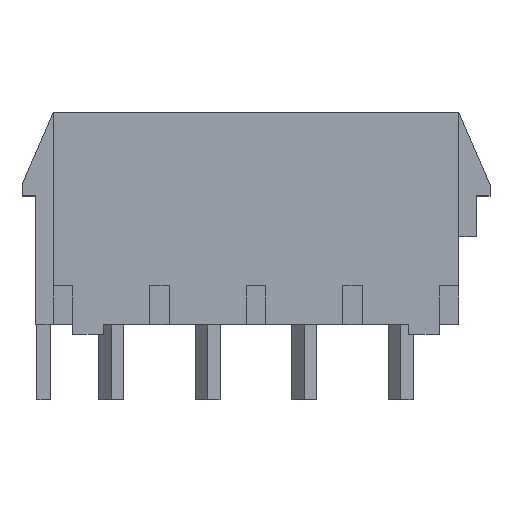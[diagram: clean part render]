
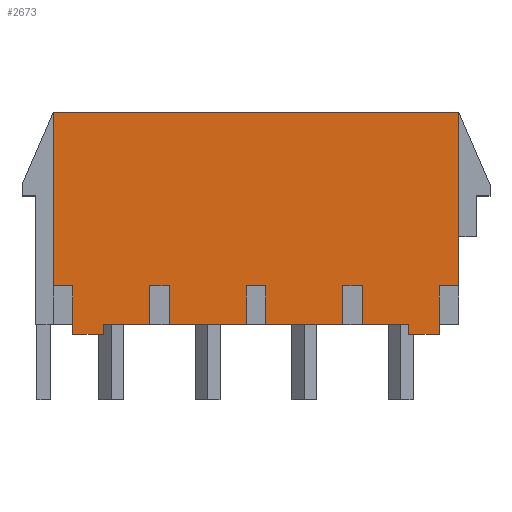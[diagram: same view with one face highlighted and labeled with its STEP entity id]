
A CAD part, top view. The second image highlights one B-rep face of the part: STEP entity #2673.
In plain terms, the highlighted planar face has unit normal (0, 0, 1).
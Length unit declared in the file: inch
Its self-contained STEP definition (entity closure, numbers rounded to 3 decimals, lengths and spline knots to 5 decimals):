
#353=DIRECTION('',(0.,-1.,0.));
#354=VECTOR('',#353,0.025);
#355=CARTESIAN_POINT('',(-0.475,-0.275,0.15));
#356=LINE('',#355,#354);
#357=DIRECTION('',(0.,-1.,0.));
#358=VECTOR('',#357,0.1);
#359=CARTESIAN_POINT('',(0.475,-0.175,0.15));
#360=LINE('',#359,#358);
#361=DIRECTION('',(0.,-1.,0.));
#362=VECTOR('',#361,0.025);
#363=CARTESIAN_POINT('',(0.475,-0.275,0.15));
#364=LINE('',#363,#362);
#365=DIRECTION('',(1.,0.,0.));
#366=VECTOR('',#365,0.12);
#367=CARTESIAN_POINT('',(0.275,-0.275,0.15));
#368=LINE('',#367,#366);
#369=DIRECTION('',(0.,1.,0.));
#370=VECTOR('',#369,0.1);
#371=CARTESIAN_POINT('',(0.275,-0.275,0.15));
#372=LINE('',#371,#370);
#373=DIRECTION('',(-1.,0.,0.));
#374=VECTOR('',#373,0.05);
#375=CARTESIAN_POINT('',(0.275,-0.175,0.15));
#376=LINE('',#375,#374);
#377=DIRECTION('',(0.,-1.,0.));
#378=VECTOR('',#377,0.1);
#379=CARTESIAN_POINT('',(0.225,-0.175,0.15));
#380=LINE('',#379,#378);
#381=DIRECTION('',(1.,0.,0.));
#382=VECTOR('',#381,0.2);
#383=CARTESIAN_POINT('',(0.025,-0.275,0.15));
#384=LINE('',#383,#382);
#385=DIRECTION('',(0.,1.,0.));
#386=VECTOR('',#385,0.1);
#387=CARTESIAN_POINT('',(0.025,-0.275,0.15));
#388=LINE('',#387,#386);
#389=DIRECTION('',(-1.,0.,0.));
#390=VECTOR('',#389,0.05);
#391=CARTESIAN_POINT('',(0.025,-0.175,0.15));
#392=LINE('',#391,#390);
#393=DIRECTION('',(0.,-1.,0.));
#394=VECTOR('',#393,0.1);
#395=CARTESIAN_POINT('',(-0.025,-0.175,0.15));
#396=LINE('',#395,#394);
#397=DIRECTION('',(1.,0.,0.));
#398=VECTOR('',#397,0.2);
#399=CARTESIAN_POINT('',(-0.225,-0.275,0.15));
#400=LINE('',#399,#398);
#401=DIRECTION('',(0.,1.,0.));
#402=VECTOR('',#401,0.1);
#403=CARTESIAN_POINT('',(-0.225,-0.275,0.15));
#404=LINE('',#403,#402);
#405=DIRECTION('',(-1.,0.,0.));
#406=VECTOR('',#405,0.05);
#407=CARTESIAN_POINT('',(-0.225,-0.175,0.15));
#408=LINE('',#407,#406);
#409=DIRECTION('',(0.,-1.,0.));
#410=VECTOR('',#409,0.1);
#411=CARTESIAN_POINT('',(-0.275,-0.175,0.15));
#412=LINE('',#411,#410);
#413=DIRECTION('',(1.,0.,0.));
#414=VECTOR('',#413,0.12);
#415=CARTESIAN_POINT('',(-0.395,-0.275,0.15));
#416=LINE('',#415,#414);
#417=DIRECTION('',(0.,-1.,0.));
#418=VECTOR('',#417,0.025);
#419=CARTESIAN_POINT('',(-0.395,-0.275,0.15));
#420=LINE('',#419,#418);
#421=DIRECTION('',(0.,1.,0.));
#422=VECTOR('',#421,0.1);
#423=CARTESIAN_POINT('',(-0.475,-0.275,0.15));
#424=LINE('',#423,#422);
#425=DIRECTION('',(1.,0.,0.));
#426=VECTOR('',#425,0.05);
#427=CARTESIAN_POINT('',(-0.525,-0.175,0.15));
#428=LINE('',#427,#426);
#429=DIRECTION('',(0.,-1.,0.));
#430=VECTOR('',#429,0.45);
#431=CARTESIAN_POINT('',(-0.525,0.275,0.15));
#432=LINE('',#431,#430);
#433=DIRECTION('',(-1.,0.,0.));
#434=VECTOR('',#433,1.05);
#435=CARTESIAN_POINT('',(0.525,0.275,0.15));
#436=LINE('',#435,#434);
#437=DIRECTION('',(0.,1.,0.));
#438=VECTOR('',#437,0.45);
#439=CARTESIAN_POINT('',(0.525,-0.175,0.15));
#440=LINE('',#439,#438);
#441=DIRECTION('',(-1.,0.,0.));
#442=VECTOR('',#441,0.05);
#443=CARTESIAN_POINT('',(0.525,-0.175,0.15));
#444=LINE('',#443,#442);
#1417=DIRECTION('',(0.,-1.,0.));
#1418=VECTOR('',#1417,0.025);
#1419=CARTESIAN_POINT('',(0.395,-0.275,0.15));
#1420=LINE('',#1419,#1418);
#1425=DIRECTION('',(-1.,0.,0.));
#1426=VECTOR('',#1425,0.08);
#1427=CARTESIAN_POINT('',(-0.395,-0.3,0.15));
#1428=LINE('',#1427,#1426);
#1437=DIRECTION('',(-1.,0.,0.));
#1438=VECTOR('',#1437,0.08);
#1439=CARTESIAN_POINT('',(0.475,-0.3,0.15));
#1440=LINE('',#1439,#1438);
#1609=CARTESIAN_POINT('',(0.525,0.275,0.15));
#1610=CARTESIAN_POINT('',(-0.525,0.275,0.15));
#1611=VERTEX_POINT('',#1609);
#1612=VERTEX_POINT('',#1610);
#1833=CARTESIAN_POINT('',(-0.525,-0.175,0.15));
#1834=CARTESIAN_POINT('',(-0.475,-0.175,0.15));
#1835=VERTEX_POINT('',#1833);
#1836=VERTEX_POINT('',#1834);
#1845=CARTESIAN_POINT('',(-0.225,-0.275,0.15));
#1846=CARTESIAN_POINT('',(-0.225,-0.175,0.15));
#1847=VERTEX_POINT('',#1845);
#1848=VERTEX_POINT('',#1846);
#1849=CARTESIAN_POINT('',(-0.275,-0.175,0.15));
#1850=VERTEX_POINT('',#1849);
#1851=CARTESIAN_POINT('',(-0.275,-0.275,0.15));
#1852=VERTEX_POINT('',#1851);
#1861=CARTESIAN_POINT('',(0.025,-0.275,0.15));
#1862=CARTESIAN_POINT('',(0.025,-0.175,0.15));
#1863=VERTEX_POINT('',#1861);
#1864=VERTEX_POINT('',#1862);
#1865=CARTESIAN_POINT('',(-0.025,-0.175,0.15));
#1866=VERTEX_POINT('',#1865);
#1867=CARTESIAN_POINT('',(-0.025,-0.275,0.15));
#1868=VERTEX_POINT('',#1867);
#1877=CARTESIAN_POINT('',(0.275,-0.175,0.15));
#1878=CARTESIAN_POINT('',(0.225,-0.175,0.15));
#1879=VERTEX_POINT('',#1877);
#1880=VERTEX_POINT('',#1878);
#1881=CARTESIAN_POINT('',(0.225,-0.275,0.15));
#1882=VERTEX_POINT('',#1881);
#1883=CARTESIAN_POINT('',(0.275,-0.275,0.15));
#1884=VERTEX_POINT('',#1883);
#1909=CARTESIAN_POINT('',(0.525,-0.175,0.15));
#1910=CARTESIAN_POINT('',(0.475,-0.175,0.15));
#1911=VERTEX_POINT('',#1909);
#1912=VERTEX_POINT('',#1910);
#1961=CARTESIAN_POINT('',(-0.475,-0.3,0.15));
#1963=VERTEX_POINT('',#1961);
#1967=CARTESIAN_POINT('',(-0.395,-0.3,0.15));
#1968=VERTEX_POINT('',#1967);
#1969=CARTESIAN_POINT('',(0.475,-0.3,0.15));
#1970=CARTESIAN_POINT('',(0.395,-0.3,0.15));
#1971=VERTEX_POINT('',#1969);
#1972=VERTEX_POINT('',#1970);
#1993=CARTESIAN_POINT('',(-0.475,-0.275,0.15));
#1995=VERTEX_POINT('',#1993);
#1999=CARTESIAN_POINT('',(-0.395,-0.275,0.15));
#2000=VERTEX_POINT('',#1999);
#2001=CARTESIAN_POINT('',(0.395,-0.275,0.15));
#2003=VERTEX_POINT('',#2001);
#2007=CARTESIAN_POINT('',(0.475,-0.275,0.15));
#2008=VERTEX_POINT('',#2007);
#2619=CARTESIAN_POINT('',(0.,0.,0.15));
#2620=DIRECTION('',(0.,0.,1.));
#2621=DIRECTION('',(1.,0.,0.));
#2622=AXIS2_PLACEMENT_3D('',#2619,#2620,#2621);
#2623=PLANE('',#2622);
#2625=ORIENTED_EDGE('',*,*,#2624,.T.);
#2627=ORIENTED_EDGE('',*,*,#2626,.T.);
#2629=ORIENTED_EDGE('',*,*,#2628,.T.);
#2631=ORIENTED_EDGE('',*,*,#2630,.F.);
#2632=ORIENTED_EDGE('',*,*,#2168,.F.);
#2634=ORIENTED_EDGE('',*,*,#2633,.T.);
#2636=ORIENTED_EDGE('',*,*,#2635,.T.);
#2638=ORIENTED_EDGE('',*,*,#2637,.T.);
#2639=ORIENTED_EDGE('',*,*,#2160,.F.);
#2641=ORIENTED_EDGE('',*,*,#2640,.T.);
#2643=ORIENTED_EDGE('',*,*,#2642,.T.);
#2645=ORIENTED_EDGE('',*,*,#2644,.T.);
#2646=ORIENTED_EDGE('',*,*,#2152,.F.);
#2648=ORIENTED_EDGE('',*,*,#2647,.T.);
#2650=ORIENTED_EDGE('',*,*,#2649,.T.);
#2652=ORIENTED_EDGE('',*,*,#2651,.T.);
#2653=ORIENTED_EDGE('',*,*,#2144,.F.);
#2655=ORIENTED_EDGE('',*,*,#2654,.T.);
#2657=ORIENTED_EDGE('',*,*,#2656,.T.);
#2658=ORIENTED_EDGE('',*,*,#2610,.F.);
#2660=ORIENTED_EDGE('',*,*,#2659,.T.);
#2662=ORIENTED_EDGE('',*,*,#2661,.F.);
#2664=ORIENTED_EDGE('',*,*,#2663,.F.);
#2666=ORIENTED_EDGE('',*,*,#2665,.F.);
#2668=ORIENTED_EDGE('',*,*,#2667,.F.);
#2670=ORIENTED_EDGE('',*,*,#2669,.T.);
#2671=EDGE_LOOP('',(#2625,#2627,#2629,#2631,#2632,#2634,#2636,#2638,#2639,#2641,
#2643,#2645,#2646,#2648,#2650,#2652,#2653,#2655,#2657,#2658,#2660,#2662,#2664,
#2666,#2668,#2670));
#2672=FACE_OUTER_BOUND('',#2671,.F.);
#2673=ADVANCED_FACE('',(#2672),#2623,.T.);
#2144=EDGE_CURVE('',#2000,#1852,#416,.T.);
#2152=EDGE_CURVE('',#1847,#1868,#400,.T.);
#2160=EDGE_CURVE('',#1863,#1882,#384,.T.);
#2168=EDGE_CURVE('',#1884,#2003,#368,.T.);
#2610=EDGE_CURVE('',#1995,#1963,#356,.T.);
#2624=EDGE_CURVE('',#1912,#2008,#360,.T.);
#2626=EDGE_CURVE('',#2008,#1971,#364,.T.);
#2628=EDGE_CURVE('',#1971,#1972,#1440,.T.);
#2630=EDGE_CURVE('',#2003,#1972,#1420,.T.);
#2633=EDGE_CURVE('',#1884,#1879,#372,.T.);
#2635=EDGE_CURVE('',#1879,#1880,#376,.T.);
#2637=EDGE_CURVE('',#1880,#1882,#380,.T.);
#2640=EDGE_CURVE('',#1863,#1864,#388,.T.);
#2642=EDGE_CURVE('',#1864,#1866,#392,.T.);
#2644=EDGE_CURVE('',#1866,#1868,#396,.T.);
#2647=EDGE_CURVE('',#1847,#1848,#404,.T.);
#2649=EDGE_CURVE('',#1848,#1850,#408,.T.);
#2651=EDGE_CURVE('',#1850,#1852,#412,.T.);
#2654=EDGE_CURVE('',#2000,#1968,#420,.T.);
#2656=EDGE_CURVE('',#1968,#1963,#1428,.T.);
#2659=EDGE_CURVE('',#1995,#1836,#424,.T.);
#2661=EDGE_CURVE('',#1835,#1836,#428,.T.);
#2663=EDGE_CURVE('',#1612,#1835,#432,.T.);
#2665=EDGE_CURVE('',#1611,#1612,#436,.T.);
#2667=EDGE_CURVE('',#1911,#1611,#440,.T.);
#2669=EDGE_CURVE('',#1911,#1912,#444,.T.);
